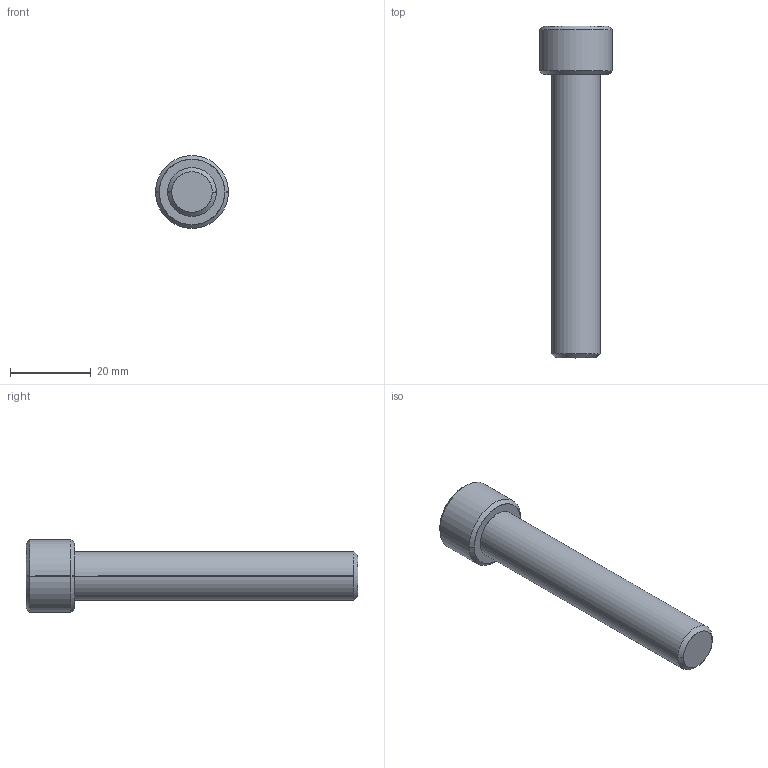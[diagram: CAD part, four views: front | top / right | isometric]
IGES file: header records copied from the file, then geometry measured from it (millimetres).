
Start section: SolidWorks IGES file using analytic representation for surfaces
Global section: file name: D:\Cleonir_arquivos\MT_15_07\Parafuso Allen Cabeça Cilindrica\CLM12070.igs; native system: SolidWorks 2013; preprocessor: SolidWorks 2013; author: Cleonir; date: 130730.130128; units: millimetre
Bounding box: 18 x 82 x 18 mm (x, y, z)
Surface area: 4030.5 mm2 (no closed solid volume)
Topology: 0 solids, 0 shells, 272 faces, 2359 edges, 2359 vertices
Faces by surface type: bspline 254, revolution 18
